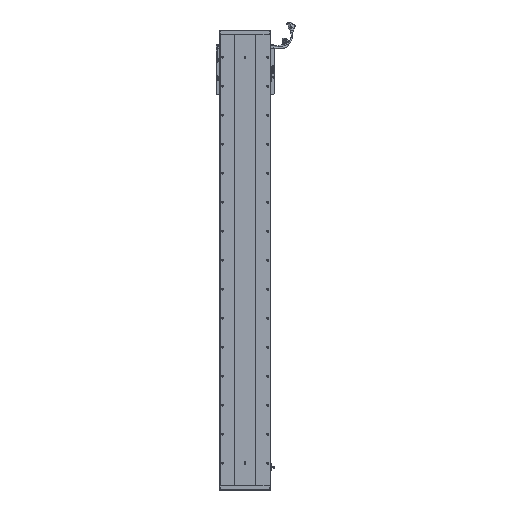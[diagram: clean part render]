
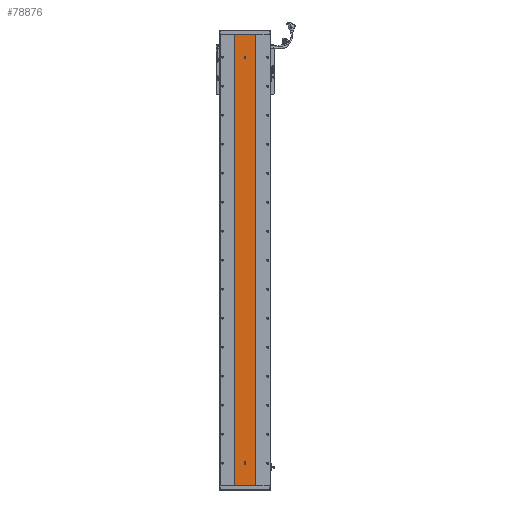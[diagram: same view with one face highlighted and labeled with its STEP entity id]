
A CAD part, front view. The second image highlights one B-rep face of the part: STEP entity #78876.
In plain terms, the highlighted planar face has unit normal (0, -1, 0).
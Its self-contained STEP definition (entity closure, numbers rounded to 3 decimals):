
#1096 = VERTEX_POINT ( 'NONE', #95946 ) ;
#1330 = EDGE_CURVE ( 'NONE', #35459, #98293, #72319, .T. ) ;
#3949 = CARTESIAN_POINT ( 'NONE',  ( 3280.529, 1415.701, 77. ) ) ;
#4929 = CIRCLE ( 'NONE', #33832, 3. ) ;
#5258 = CARTESIAN_POINT ( 'NONE',  ( 3316.311, 1415.701, 1557. ) ) ;
#5632 = EDGE_LOOP ( 'NONE', ( #83397, #26621, #67292, #83088 ) ) ;
#6467 = CARTESIAN_POINT ( 'NONE',  ( 3283.529, 1415.701, 80. ) ) ;
#6729 = VECTOR ( 'NONE', #14354, 1000. ) ;
#8655 = EDGE_CURVE ( 'NONE', #37351, #77828, #67007, .T. ) ;
#9164 = LINE ( 'NONE', #6467, #6729 ) ;
#10807 = VECTOR ( 'NONE', #86873, 1000. ) ;
#11613 = CARTESIAN_POINT ( 'NONE',  ( 3277.529, 1415.701, 77. ) ) ;
#12755 = CARTESIAN_POINT ( 'NONE',  ( 3244.748, 1415.701, 1557. ) ) ;
#14354 = DIRECTION ( 'NONE',  ( 0., 0., 1. ) ) ;
#16278 = CARTESIAN_POINT ( 'NONE',  ( 3280.529, 1415.701, 77. ) ) ;
#16722 = DIRECTION ( 'NONE',  ( 0., 0., -1. ) ) ;
#17151 = CIRCLE ( 'NONE', #57181, 3. ) ;
#18317 = CIRCLE ( 'NONE', #72931, 3. ) ;
#20366 = CARTESIAN_POINT ( 'NONE',  ( 3244.748, 1415.701, 1557. ) ) ;
#21573 = CARTESIAN_POINT ( 'NONE',  ( 3244.748, 1415.701, 1557. ) ) ;
#23724 = CIRCLE ( 'NONE', #57272, 3. ) ;
#24264 = VERTEX_POINT ( 'NONE', #34423 ) ;
#24706 = CARTESIAN_POINT ( 'NONE',  ( 3316.311, 1415.701, 0. ) ) ;
#24981 = DIRECTION ( 'NONE',  ( 0., 0., -1. ) ) ;
#25020 = EDGE_CURVE ( 'NONE', #77828, #90312, #55889, .T. ) ;
#25661 = CARTESIAN_POINT ( 'NONE',  ( 3280.529, 1415.701, 1478.5 ) ) ;
#26621 = ORIENTED_EDGE ( 'NONE', *, *, #32455, .F. ) ;
#27074 = EDGE_CURVE ( 'NONE', #37351, #61565, #71384, .T. ) ;
#27434 = ORIENTED_EDGE ( 'NONE', *, *, #1330, .F. ) ;
#30167 = DIRECTION ( 'NONE',  ( 0., -1., 0. ) ) ;
#31547 = CARTESIAN_POINT ( 'NONE',  ( 3277.529, 1415.701, 80. ) ) ;
#32455 = EDGE_CURVE ( 'NONE', #61565, #90312, #56071, .T. ) ;
#33832 = AXIS2_PLACEMENT_3D ( 'NONE', #16278, #94529, #48089 ) ;
#33890 = FACE_BOUND ( 'NONE', #87978, .T. ) ;
#34370 = VECTOR ( 'NONE', #36784, 1000. ) ;
#34423 = CARTESIAN_POINT ( 'NONE',  ( 3280.529, 1415.701, 74. ) ) ;
#35071 = DIRECTION ( 'NONE',  ( 0., -1., 0. ) ) ;
#35459 = VERTEX_POINT ( 'NONE', #31547 ) ;
#36678 = DIRECTION ( 'NONE',  ( 0., 0., -1. ) ) ;
#36784 = DIRECTION ( 'NONE',  ( 0., 0., -1. ) ) ;
#37351 = VERTEX_POINT ( 'NONE', #71210 ) ;
#37637 = CARTESIAN_POINT ( 'NONE',  ( 3244.748, 1415.701, 0. ) ) ;
#39314 = DIRECTION ( 'NONE',  ( 0., -1., 0. ) ) ;
#39401 = CARTESIAN_POINT ( 'NONE',  ( 3316.311, 1415.701, 1557. ) ) ;
#43971 = EDGE_CURVE ( 'NONE', #24264, #76134, #18317, .T. ) ;
#44850 = DIRECTION ( 'NONE',  ( 0., 0., 1. ) ) ;
#45229 = DIRECTION ( 'NONE',  ( 0., 0., -1. ) ) ;
#45604 = CARTESIAN_POINT ( 'NONE',  ( 3283.529, 1415.701, 80. ) ) ;
#47770 = ORIENTED_EDGE ( 'NONE', *, *, #99536, .F. ) ;
#48089 = DIRECTION ( 'NONE',  ( 0., 0., -1. ) ) ;
#48093 = VECTOR ( 'NONE', #83333, 1000. ) ;
#52216 = CARTESIAN_POINT ( 'NONE',  ( 3277.529, 1415.701, 80. ) ) ;
#52532 = ORIENTED_EDGE ( 'NONE', *, *, #56039, .F. ) ;
#52609 = CARTESIAN_POINT ( 'NONE',  ( 3244.748, 1415.701, 0. ) ) ;
#54132 = EDGE_CURVE ( 'NONE', #90107, #1096, #69780, .T. ) ;
#54298 = ORIENTED_EDGE ( 'NONE', *, *, #54132, .F. ) ;
#54964 = ORIENTED_EDGE ( 'NONE', *, *, #79867, .F. ) ;
#55889 = LINE ( 'NONE', #37637, #87601 ) ;
#56039 = EDGE_CURVE ( 'NONE', #98293, #24264, #4929, .T. ) ;
#56071 = LINE ( 'NONE', #39401, #10807 ) ;
#57181 = AXIS2_PLACEMENT_3D ( 'NONE', #25661, #65076, #24981 ) ;
#57272 = AXIS2_PLACEMENT_3D ( 'NONE', #62005, #30167, #45229 ) ;
#57469 = EDGE_LOOP ( 'NONE', ( #75369, #54298 ) ) ;
#58059 = DIRECTION ( 'NONE',  ( 0., 0., -1. ) ) ;
#61288 = PLANE ( 'NONE',  #86734 ) ;
#61565 = VERTEX_POINT ( 'NONE', #5258 ) ;
#62005 = CARTESIAN_POINT ( 'NONE',  ( 3280.529, 1415.701, 80. ) ) ;
#62347 = ORIENTED_EDGE ( 'NONE', *, *, #43971, .F. ) ;
#65076 = DIRECTION ( 'NONE',  ( 0., -1., 0. ) ) ;
#67007 = LINE ( 'NONE', #12755, #81700 ) ;
#67292 = ORIENTED_EDGE ( 'NONE', *, *, #27074, .F. ) ;
#69780 = CIRCLE ( 'NONE', #101218, 3. ) ;
#70495 = VERTEX_POINT ( 'NONE', #45604 ) ;
#71210 = CARTESIAN_POINT ( 'NONE',  ( 3244.748, 1415.701, 1557. ) ) ;
#71384 = LINE ( 'NONE', #20366, #48093 ) ;
#72319 = LINE ( 'NONE', #52216, #34370 ) ;
#72931 = AXIS2_PLACEMENT_3D ( 'NONE', #3949, #35071, #58059 ) ;
#75369 = ORIENTED_EDGE ( 'NONE', *, *, #75881, .F. ) ;
#75646 = DIRECTION ( 'NONE',  ( 1., 0., 0. ) ) ;
#75881 = EDGE_CURVE ( 'NONE', #1096, #90107, #17151, .T. ) ;
#76134 = VERTEX_POINT ( 'NONE', #99816 ) ;
#77828 = VERTEX_POINT ( 'NONE', #52609 ) ;
#78876 = ADVANCED_FACE ( 'NONE', ( #33890, #91382, #88918 ), #61288, .F. ) ;
#79867 = EDGE_CURVE ( 'NONE', #76134, #70495, #9164, .T. ) ;
#81700 = VECTOR ( 'NONE', #36678, 1000. ) ;
#83088 = ORIENTED_EDGE ( 'NONE', *, *, #8655, .T. ) ;
#83333 = DIRECTION ( 'NONE',  ( 1., 0., 0. ) ) ;
#83397 = ORIENTED_EDGE ( 'NONE', *, *, #25020, .T. ) ;
#86132 = CARTESIAN_POINT ( 'NONE',  ( 3280.529, 1415.701, 1478.5 ) ) ;
#86734 = AXIS2_PLACEMENT_3D ( 'NONE', #21573, #91630, #44850 ) ;
#86873 = DIRECTION ( 'NONE',  ( 0., 0., -1. ) ) ;
#87601 = VECTOR ( 'NONE', #75646, 1000. ) ;
#87978 = EDGE_LOOP ( 'NONE', ( #52532, #27434, #47770, #54964, #62347 ) ) ;
#88918 = FACE_OUTER_BOUND ( 'NONE', #5632, .T. ) ;
#90107 = VERTEX_POINT ( 'NONE', #94008 ) ;
#90312 = VERTEX_POINT ( 'NONE', #24706 ) ;
#91382 = FACE_BOUND ( 'NONE', #57469, .T. ) ;
#91630 = DIRECTION ( 'NONE',  ( 0., 1., 0. ) ) ;
#94008 = CARTESIAN_POINT ( 'NONE',  ( 3280.529, 1415.701, 1481.5 ) ) ;
#94529 = DIRECTION ( 'NONE',  ( 0., -1., 0. ) ) ;
#95946 = CARTESIAN_POINT ( 'NONE',  ( 3280.529, 1415.701, 1475.5 ) ) ;
#98293 = VERTEX_POINT ( 'NONE', #11613 ) ;
#99536 = EDGE_CURVE ( 'NONE', #70495, #35459, #23724, .T. ) ;
#99816 = CARTESIAN_POINT ( 'NONE',  ( 3283.529, 1415.701, 77. ) ) ;
#101218 = AXIS2_PLACEMENT_3D ( 'NONE', #86132, #39314, #16722 ) ;
